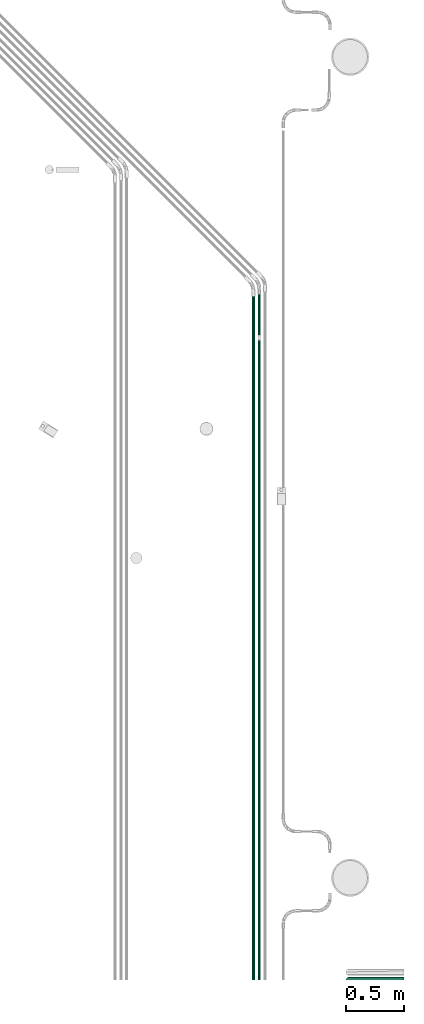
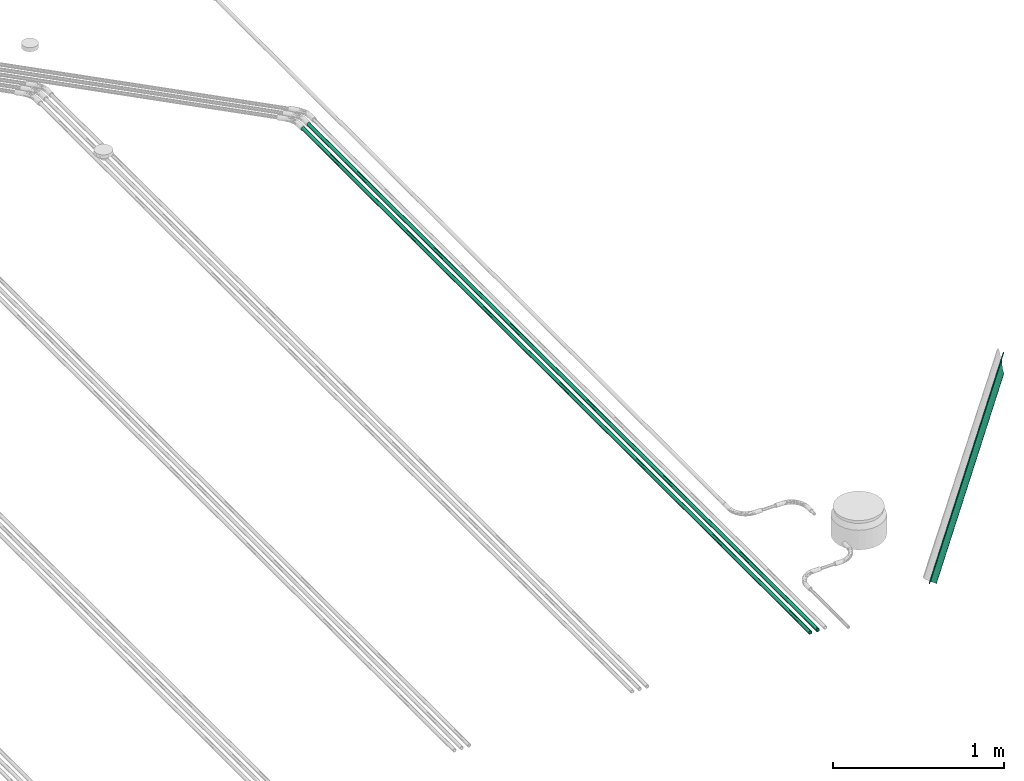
# One storey, part 39 of 51: 3 flow segments.
"""IFC2X3 building model written with IfcOpenShell, lengths in millimetres."""

from ifc_helpers import new_model, entity, si_unit, converted_unit, derived_unit, direction, frame, place, context, subcontext, project, spatial, faceted_brep, type_object, element, save


model = new_model("IFC2X3")

# Units and contexts
model_context = context("Model", 3, precision=0.01, world=frame((0.0, 4.29681676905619e-09, 0.0)), true_north=direction((4.01073788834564e-13, 1.0)))
plan_context = context("Plan", 3, precision=0.01, world=frame((0.0, 4.29681676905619e-09, 0.0)), true_north=direction((4.01073788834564e-13, 1.0)))
body_context = subcontext(model_context, "Body", "Model", "MODEL_VIEW")
ifc_project = project(units=[converted_unit("PLANEANGLEUNIT", "DEGREE", entity("IfcPositiveLengthMeasure", 0.0174532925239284), si_unit("PLANEANGLEUNIT", "RADIAN"), dimensions=[0, 0, 0, 0, 0, 0, 0]), si_unit("AREAUNIT", "SQUARE_METRE"), si_unit("LENGTHUNIT", "METRE", prefix="MILLI"), si_unit("MASSUNIT", "GRAM", prefix="KILO"), si_unit("POWERUNIT", "WATT"), si_unit("PRESSUREUNIT", "PASCAL"), si_unit("FORCEUNIT", "NEWTON", prefix="KILO"), si_unit("ELECTRICVOLTAGEUNIT", "VOLT"), si_unit("ELECTRICCURRENTUNIT", "AMPERE"), si_unit("THERMODYNAMICTEMPERATUREUNIT", "DEGREE_CELSIUS"), si_unit("TIMEUNIT", "SECOND"), si_unit("VOLUMEUNIT", "CUBIC_METRE"), derived_unit("LINEARVELOCITYUNIT", [(si_unit("LENGTHUNIT", "METRE"), 1), (si_unit("TIMEUNIT", "SECOND"), -1)]), derived_unit("VOLUMETRICFLOWRATEUNIT", [(si_unit("VOLUMEUNIT", "CUBIC_METRE"), 1), (si_unit("TIMEUNIT", "SECOND"), -1)]), derived_unit("THERMALTRANSMITTANCEUNIT", [(si_unit("POWERUNIT", "WATT"), 1), (si_unit("THERMODYNAMICTEMPERATUREUNIT", "KELVIN"), -1), (si_unit("AREAUNIT", "SQUARE_METRE"), -1)]), derived_unit("SOUNDPRESSUREUNIT", [(si_unit("PRESSUREUNIT", "PASCAL"), 1)])], contexts=[model_context, plan_context])

# Site, building, storey
site_placement = place(None, frame((0.0, -4.29681676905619e-09, 0.0), z_axis=(0.0, 0.0, 1.0), x_axis=(1.0, 0.0, 0.0)))
site = spatial("IfcSite", under=ifc_project, at=site_placement, Name="ENGM", CompositionType="ELEMENT")
building_placement = place(site_placement, frame((0.0, 4.29681676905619e-09, 0.0), z_axis=(0.0, 0.0, 1.0), x_axis=(1.0, 0.0, 0.0)))
building = spatial("IfcBuilding", under=site, at=building_placement, Name="TI", CompositionType="ELEMENT")
storey_placement = place(building_placement, frame((0.0, 0.0, 210900.0), z_axis=(0.0, 0.0, 1.0), x_axis=(1.0, 0.0, 0.0)))
storey = spatial("IfcBuildingStorey", under=building, at=storey_placement, Name="Nivå F", CompositionType="ELEMENT", Elevation=210900.0)

# Flow segments
cable_carrier_segment_type_1 = type_object("IfcCableCarrierSegmentType", Name="Trekkerør, korrugert", PredefinedType="CONDUITSEGMENT")
flow_segment_1_placement = place(storey_placement, frame((611124.59, 694926.31681, -56.7999999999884), z_axis=(0.0, 0.0, 1.0), x_axis=(0.0, -1.0, 0.0)))
element("IfcFlowSegment", 1, at=flow_segment_1_placement, inside=storey, type_object=cable_carrier_segment_type_1, Name="Trekkerør, korrugert", context=body_context, shape_type="Brep", body=[
    faceted_brep([(5926.31681000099, 10.5, 0.0), (5926.31681000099, 10.3404814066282, -1.82330586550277), (0.0, 10.3404814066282, -1.82330586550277), (0.0, 10.5, 0.0), (5926.31681000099, 9.86677251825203, -3.59121150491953), (0.0, 9.86677251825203, -3.59121150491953), (5926.31681000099, 9.0932667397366, -5.25), (0.0, 9.0932667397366, -5.25), (5926.31681000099, 8.04346665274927, -6.74926990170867), (0.0, 8.04346665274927, -6.74926990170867), (5926.31681000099, 6.74926990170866, -8.04346665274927), (0.0, 6.74926990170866, -8.04346665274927), (5926.31681000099, 5.25, -9.09326673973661), (0.0, 5.25, -9.09326673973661), (5926.31681000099, 3.59121150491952, -9.86677251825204), (0.0, 3.59121150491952, -9.86677251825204), (5926.31681000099, 1.82330586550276, -10.3404814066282), (0.0, 1.82330586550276, -10.3404814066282), (5926.31681000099, -1.92881870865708e-15, -10.5), (0.0, -1.92881870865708e-15, -10.5), (5926.31681000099, -1.82330586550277, -10.3404814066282), (0.0, -1.82330586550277, -10.3404814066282), (5926.31681000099, -3.59121150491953, -9.86677251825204), (0.0, -3.59121150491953, -9.86677251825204), (5926.31681000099, -5.25, -9.0932667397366), (0.0, -5.25, -9.0932667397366), (5926.31681000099, -6.74926990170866, -8.04346665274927), (0.0, -6.74926990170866, -8.04346665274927), (5926.31681000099, -8.04346665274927, -6.74926990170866), (0.0, -8.04346665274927, -6.74926990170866), (5926.31681000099, -9.09326673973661, -5.25), (0.0, -9.09326673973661, -5.25), (5926.31681000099, -9.86677251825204, -3.59121150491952), (0.0, -9.86677251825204, -3.59121150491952), (5926.31681000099, -10.3404814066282, -1.82330586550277), (0.0, -10.3404814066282, -1.82330586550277), (5926.31681000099, -10.5, 1.28587913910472e-15), (0.0, -10.5, 1.28587913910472e-15), (5926.31681000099, -10.3404814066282, 1.82330586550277), (0.0, -10.3404814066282, 1.82330586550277), (5926.31681000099, -9.86677251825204, 3.59121150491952), (0.0, -9.86677251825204, 3.59121150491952), (5926.31681000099, -9.09326673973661, 5.25), (0.0, -9.09326673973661, 5.25), (5926.31681000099, -8.04346665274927, 6.74926990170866), (0.0, -8.04346665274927, 6.74926990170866), (5926.31681000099, -6.74926990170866, 8.04346665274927), (0.0, -6.74926990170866, 8.04346665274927), (5926.31681000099, -5.25, 9.09326673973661), (0.0, -5.25, 9.09326673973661), (5926.31681000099, -3.59121150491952, 9.86677251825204), (0.0, -3.59121150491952, 9.86677251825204), (5926.31681000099, -1.82330586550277, 10.3404814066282), (0.0, -1.82330586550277, 10.3404814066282), (5926.31681000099, 6.4293956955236e-16, 10.5), (0.0, 6.4293956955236e-16, 10.5), (5926.31681000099, 1.82330586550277, 10.3404814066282), (0.0, 1.82330586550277, 10.3404814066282), (5926.31681000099, 3.59121150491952, 9.86677251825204), (0.0, 3.59121150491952, 9.86677251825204), (5926.31681000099, 5.25, 9.09326673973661), (0.0, 5.25, 9.09326673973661), (5926.31681000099, 6.74926990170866, 8.04346665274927), (0.0, 6.74926990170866, 8.04346665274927), (5926.31681000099, 8.04346665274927, 6.74926990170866), (0.0, 8.04346665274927, 6.74926990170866), (5926.31681000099, 9.09326673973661, 5.25), (0.0, 9.09326673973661, 5.25), (5926.31681000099, 9.86677251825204, 3.59121150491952), (0.0, 9.86677251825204, 3.59121150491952), (5926.31681000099, 10.3404814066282, 1.82330586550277), (0.0, 10.3404814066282, 1.82330586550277), (5926.31681000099, 12.3100969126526, -2.17060222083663), (5926.31681000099, 12.5, 0.0), (0.0, 12.5, 0.0), (0.0, 12.3100969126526, -2.17060222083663), (5926.31681000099, 12.3100969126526, 2.17060222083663), (0.0, 12.3100969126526, 2.17060222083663), (5926.31681000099, 11.7461577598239, 4.27525179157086), (0.0, 11.7461577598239, 4.27525179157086), (5926.31681000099, 10.8253175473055, 6.25), (0.0, 10.8253175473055, 6.25), (5926.31681000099, 9.57555553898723, 8.03484512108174), (0.0, 9.57555553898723, 8.03484512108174), (5926.31681000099, 8.03484512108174, 9.57555553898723), (0.0, 8.03484512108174, 9.57555553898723), (5926.31681000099, 6.25, 10.8253175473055), (0.0, 6.25, 10.8253175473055), (5926.31681000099, 4.27525179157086, 11.7461577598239), (0.0, 4.27525179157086, 11.7461577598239), (5926.31681000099, 2.17060222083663, 12.3100969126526), (0.0, 2.17060222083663, 12.3100969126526), (5926.31681000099, 7.65404249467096e-16, 12.5), (0.0, 7.65404249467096e-16, 12.5), (5926.31681000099, -2.17060222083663, 12.3100969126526), (0.0, -2.17060222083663, 12.3100969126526), (5926.31681000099, -4.27525179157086, 11.7461577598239), (0.0, -4.27525179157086, 11.7461577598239), (5926.31681000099, -6.25, 10.8253175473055), (0.0, -6.25, 10.8253175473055), (5926.31681000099, -8.03484512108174, 9.57555553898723), (0.0, -8.03484512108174, 9.57555553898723), (5926.31681000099, -9.57555553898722, 8.03484512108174), (0.0, -9.57555553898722, 8.03484512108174), (5926.31681000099, -10.8253175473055, 6.25), (0.0, -10.8253175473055, 6.25), (5926.31681000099, -11.7461577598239, 4.27525179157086), (0.0, -11.7461577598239, 4.27525179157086), (5926.31681000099, -12.3100969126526, 2.17060222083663), (0.0, -12.3100969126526, 2.17060222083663), (5926.31681000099, -12.5, 1.53080849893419e-15), (0.0, -12.5, 1.53080849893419e-15), (5926.31681000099, -12.3100969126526, -2.17060222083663), (0.0, -12.3100969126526, -2.17060222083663), (5926.31681000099, -11.7461577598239, -4.27525179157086), (0.0, -11.7461577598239, -4.27525179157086), (5926.31681000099, -10.8253175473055, -6.25), (0.0, -10.8253175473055, -6.25), (5926.31681000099, -9.57555553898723, -8.03484512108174), (0.0, -9.57555553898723, -8.03484512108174), (5926.31681000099, -8.03484512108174, -9.57555553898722), (0.0, -8.03484512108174, -9.57555553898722), (5926.31681000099, -6.25000000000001, -10.8253175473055), (0.0, -6.25000000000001, -10.8253175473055), (5926.31681000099, -4.27525179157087, -11.7461577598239), (0.0, -4.27525179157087, -11.7461577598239), (5926.31681000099, -2.17060222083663, -12.3100969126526), (0.0, -2.17060222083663, -12.3100969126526), (5926.31681000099, -2.29621274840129e-15, -12.5), (0.0, -2.29621274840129e-15, -12.5), (5926.31681000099, 2.17060222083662, -12.3100969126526), (0.0, 2.17060222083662, -12.3100969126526), (5926.31681000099, 4.27525179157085, -11.7461577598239), (0.0, 4.27525179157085, -11.7461577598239), (5926.31681000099, 6.25, -10.8253175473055), (0.0, 6.25, -10.8253175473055), (5926.31681000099, 8.03484512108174, -9.57555553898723), (0.0, 8.03484512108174, -9.57555553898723), (5926.31681000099, 9.57555553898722, -8.03484512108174), (0.0, 9.57555553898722, -8.03484512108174), (5926.31681000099, 10.8253175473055, -6.25000000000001), (0.0, 10.8253175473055, -6.25000000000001), (5926.31681000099, 11.7461577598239, -4.27525179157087), (0.0, 11.7461577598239, -4.27525179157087)], [[[0, 1, 2, 3]], [[1, 4, 5, 2]], [[4, 6, 7, 5]], [[6, 8, 9, 7]], [[8, 10, 11, 9]], [[10, 12, 13, 11]], [[12, 14, 15, 13]], [[14, 16, 17, 15]], [[16, 18, 19, 17]], [[18, 20, 21, 19]], [[20, 22, 23, 21]], [[22, 24, 25, 23]], [[24, 26, 27, 25]], [[26, 28, 29, 27]], [[28, 30, 31, 29]], [[30, 32, 33, 31]], [[32, 34, 35, 33]], [[34, 36, 37, 35]], [[36, 38, 39, 37]], [[38, 40, 41, 39]], [[40, 42, 43, 41]], [[42, 44, 45, 43]], [[44, 46, 47, 45]], [[46, 48, 49, 47]], [[48, 50, 51, 49]], [[50, 52, 53, 51]], [[52, 54, 55, 53]], [[54, 56, 57, 55]], [[56, 58, 59, 57]], [[58, 60, 61, 59]], [[60, 62, 63, 61]], [[62, 64, 65, 63]], [[64, 66, 67, 65]], [[66, 68, 69, 67]], [[68, 70, 71, 69]], [[70, 0, 3, 71]], [[72, 73, 74, 75]], [[73, 76, 77, 74]], [[76, 78, 79, 77]], [[78, 80, 81, 79]], [[80, 82, 83, 81]], [[82, 84, 85, 83]], [[84, 86, 87, 85]], [[86, 88, 89, 87]], [[88, 90, 91, 89]], [[90, 92, 93, 91]], [[92, 94, 95, 93]], [[94, 96, 97, 95]], [[96, 98, 99, 97]], [[98, 100, 101, 99]], [[100, 102, 103, 101]], [[102, 104, 105, 103]], [[104, 106, 107, 105]], [[106, 108, 109, 107]], [[108, 110, 111, 109]], [[110, 112, 113, 111]], [[112, 114, 115, 113]], [[114, 116, 117, 115]], [[116, 118, 119, 117]], [[118, 120, 121, 119]], [[120, 122, 123, 121]], [[122, 124, 125, 123]], [[124, 126, 127, 125]], [[126, 128, 129, 127]], [[128, 130, 131, 129]], [[130, 132, 133, 131]], [[132, 134, 135, 133]], [[134, 136, 137, 135]], [[136, 138, 139, 137]], [[138, 140, 141, 139]], [[140, 142, 143, 141]], [[142, 72, 75, 143]], [[75, 74, 77, 79, 81, 83, 85, 87, 89, 91, 93, 95, 97, 99, 101, 103, 105, 107, 109, 111, 113, 115, 117, 119, 121, 123, 125, 127, 129, 131, 133, 135, 137, 139, 141, 143], [3, 2, 5, 7, 9, 11, 13, 15, 17, 19, 21, 23, 25, 27, 29, 31, 33, 35, 37, 39, 41, 43, 45, 47, 49, 51, 53, 55, 57, 59, 61, 63, 65, 67, 69, 71]], [[142, 140, 138, 136, 134, 132, 130, 128, 126, 124, 122, 120, 118, 116, 114, 112, 110, 108, 106, 104, 102, 100, 98, 96, 94, 92, 90, 88, 86, 84, 82, 80, 78, 76, 73, 72], [70, 68, 66, 64, 62, 60, 58, 56, 54, 52, 50, 48, 46, 44, 42, 40, 38, 36, 34, 32, 30, 28, 26, 24, 22, 20, 18, 16, 14, 12, 10, 8, 6, 4, 1, 0]]], orient=[[False], [False], [False], [False], [False], [False], [False], [False], [False], [False], [False], [False], [False], [False], [False], [False], [False], [False], [False], [False], [False], [False], [False], [False], [False], [False], [False], [False], [False], [False], [False], [False], [False], [False], [False], [False], [False], [False], [False], [False], [False], [False], [False], [False], [False], [False], [False], [False], [False], [False], [False], [False], [False], [False], [False], [False], [False], [False], [False], [False], [False], [False], [False], [False], [False], [False], [False], [False], [False], [False], [False], [False], [False, False], [False, False]]),
])
flow_segment_2_placement = place(storey_placement, frame((611174.59, 694947.02749, -56.7999999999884), z_axis=(0.0, 0.0, 1.0), x_axis=(0.0, -1.0, 0.0)))
element("IfcFlowSegment", 2, at=flow_segment_2_placement, inside=storey, type_object=cable_carrier_segment_type_1, Name="Trekkerør, korrugert", context=body_context, shape_type="Brep", body=[
    faceted_brep([(5947.02749000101, 10.5, 0.0), (5947.02749000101, 10.3404814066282, -1.82330586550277), (0.0, 10.3404814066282, -1.82330586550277), (0.0, 10.5, 0.0), (5947.02749000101, 9.86677251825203, -3.59121150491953), (0.0, 9.86677251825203, -3.59121150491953), (5947.02749000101, 9.0932667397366, -5.25), (0.0, 9.0932667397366, -5.25), (5947.02749000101, 8.04346665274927, -6.74926990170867), (0.0, 8.04346665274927, -6.74926990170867), (5947.02749000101, 6.74926990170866, -8.04346665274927), (0.0, 6.74926990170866, -8.04346665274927), (5947.02749000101, 5.25, -9.09326673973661), (0.0, 5.25, -9.09326673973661), (5947.02749000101, 3.59121150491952, -9.86677251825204), (0.0, 3.59121150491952, -9.86677251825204), (5947.02749000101, 1.82330586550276, -10.3404814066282), (0.0, 1.82330586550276, -10.3404814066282), (5947.02749000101, -1.92881870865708e-15, -10.5), (0.0, -1.92881870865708e-15, -10.5), (5947.02749000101, -1.82330586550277, -10.3404814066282), (0.0, -1.82330586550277, -10.3404814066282), (5947.02749000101, -3.59121150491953, -9.86677251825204), (0.0, -3.59121150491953, -9.86677251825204), (5947.02749000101, -5.25, -9.0932667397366), (0.0, -5.25, -9.0932667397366), (5947.02749000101, -6.74926990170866, -8.04346665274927), (0.0, -6.74926990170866, -8.04346665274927), (5947.02749000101, -8.04346665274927, -6.74926990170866), (0.0, -8.04346665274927, -6.74926990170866), (5947.02749000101, -9.09326673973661, -5.25), (0.0, -9.09326673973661, -5.25), (5947.02749000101, -9.86677251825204, -3.59121150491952), (0.0, -9.86677251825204, -3.59121150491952), (5947.02749000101, -10.3404814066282, -1.82330586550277), (0.0, -10.3404814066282, -1.82330586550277), (5947.02749000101, -10.5, 1.28587913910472e-15), (0.0, -10.5, 1.28587913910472e-15), (5947.02749000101, -10.3404814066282, 1.82330586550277), (0.0, -10.3404814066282, 1.82330586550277), (5947.02749000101, -9.86677251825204, 3.59121150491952), (0.0, -9.86677251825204, 3.59121150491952), (5947.02749000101, -9.09326673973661, 5.25), (0.0, -9.09326673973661, 5.25), (5947.02749000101, -8.04346665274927, 6.74926990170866), (0.0, -8.04346665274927, 6.74926990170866), (5947.02749000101, -6.74926990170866, 8.04346665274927), (0.0, -6.74926990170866, 8.04346665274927), (5947.02749000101, -5.25, 9.09326673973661), (0.0, -5.25, 9.09326673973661), (5947.02749000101, -3.59121150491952, 9.86677251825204), (0.0, -3.59121150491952, 9.86677251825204), (5947.02749000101, -1.82330586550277, 10.3404814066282), (0.0, -1.82330586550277, 10.3404814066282), (5947.02749000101, 6.4293956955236e-16, 10.5), (0.0, 6.4293956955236e-16, 10.5), (5947.02749000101, 1.82330586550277, 10.3404814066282), (0.0, 1.82330586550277, 10.3404814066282), (5947.02749000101, 3.59121150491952, 9.86677251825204), (0.0, 3.59121150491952, 9.86677251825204), (5947.02749000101, 5.25, 9.09326673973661), (0.0, 5.25, 9.09326673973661), (5947.02749000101, 6.74926990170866, 8.04346665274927), (0.0, 6.74926990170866, 8.04346665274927), (5947.02749000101, 8.04346665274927, 6.74926990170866), (0.0, 8.04346665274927, 6.74926990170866), (5947.02749000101, 9.09326673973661, 5.25), (0.0, 9.09326673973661, 5.25), (5947.02749000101, 9.86677251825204, 3.59121150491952), (0.0, 9.86677251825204, 3.59121150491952), (5947.02749000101, 10.3404814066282, 1.82330586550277), (0.0, 10.3404814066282, 1.82330586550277), (5947.02749000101, 12.3100969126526, -2.17060222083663), (5947.02749000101, 12.5, 0.0), (0.0, 12.5, 0.0), (0.0, 12.3100969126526, -2.17060222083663), (5947.02749000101, 12.3100969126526, 2.17060222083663), (0.0, 12.3100969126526, 2.17060222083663), (5947.02749000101, 11.7461577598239, 4.27525179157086), (0.0, 11.7461577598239, 4.27525179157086), (5947.02749000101, 10.8253175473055, 6.25), (0.0, 10.8253175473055, 6.25), (5947.02749000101, 9.57555553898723, 8.03484512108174), (0.0, 9.57555553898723, 8.03484512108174), (5947.02749000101, 8.03484512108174, 9.57555553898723), (0.0, 8.03484512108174, 9.57555553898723), (5947.02749000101, 6.25, 10.8253175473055), (0.0, 6.25, 10.8253175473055), (5947.02749000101, 4.27525179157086, 11.7461577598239), (0.0, 4.27525179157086, 11.7461577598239), (5947.02749000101, 2.17060222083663, 12.3100969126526), (0.0, 2.17060222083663, 12.3100969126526), (5947.02749000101, 7.65404249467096e-16, 12.5), (0.0, 7.65404249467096e-16, 12.5), (5947.02749000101, -2.17060222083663, 12.3100969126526), (0.0, -2.17060222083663, 12.3100969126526), (5947.02749000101, -4.27525179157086, 11.7461577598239), (0.0, -4.27525179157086, 11.7461577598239), (5947.02749000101, -6.25, 10.8253175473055), (0.0, -6.25, 10.8253175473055), (5947.02749000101, -8.03484512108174, 9.57555553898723), (0.0, -8.03484512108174, 9.57555553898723), (5947.02749000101, -9.57555553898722, 8.03484512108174), (0.0, -9.57555553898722, 8.03484512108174), (5947.02749000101, -10.8253175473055, 6.25), (0.0, -10.8253175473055, 6.25), (5947.02749000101, -11.7461577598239, 4.27525179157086), (0.0, -11.7461577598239, 4.27525179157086), (5947.02749000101, -12.3100969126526, 2.17060222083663), (0.0, -12.3100969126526, 2.17060222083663), (5947.02749000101, -12.5, 1.53080849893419e-15), (0.0, -12.5, 1.53080849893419e-15), (5947.02749000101, -12.3100969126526, -2.17060222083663), (0.0, -12.3100969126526, -2.17060222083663), (5947.02749000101, -11.7461577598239, -4.27525179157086), (0.0, -11.7461577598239, -4.27525179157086), (5947.02749000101, -10.8253175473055, -6.25), (0.0, -10.8253175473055, -6.25), (5947.02749000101, -9.57555553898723, -8.03484512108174), (0.0, -9.57555553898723, -8.03484512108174), (5947.02749000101, -8.03484512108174, -9.57555553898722), (0.0, -8.03484512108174, -9.57555553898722), (5947.02749000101, -6.25000000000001, -10.8253175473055), (0.0, -6.25000000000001, -10.8253175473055), (5947.02749000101, -4.27525179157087, -11.7461577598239), (0.0, -4.27525179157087, -11.7461577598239), (5947.02749000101, -2.17060222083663, -12.3100969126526), (0.0, -2.17060222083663, -12.3100969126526), (5947.02749000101, -2.29621274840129e-15, -12.5), (0.0, -2.29621274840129e-15, -12.5), (5947.02749000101, 2.17060222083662, -12.3100969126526), (0.0, 2.17060222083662, -12.3100969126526), (5947.02749000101, 4.27525179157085, -11.7461577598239), (0.0, 4.27525179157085, -11.7461577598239), (5947.02749000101, 6.25, -10.8253175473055), (0.0, 6.25, -10.8253175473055), (5947.02749000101, 8.03484512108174, -9.57555553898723), (0.0, 8.03484512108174, -9.57555553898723), (5947.02749000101, 9.57555553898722, -8.03484512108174), (0.0, 9.57555553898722, -8.03484512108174), (5947.02749000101, 10.8253175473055, -6.25000000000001), (0.0, 10.8253175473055, -6.25000000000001), (5947.02749000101, 11.7461577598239, -4.27525179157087), (0.0, 11.7461577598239, -4.27525179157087)], [[[0, 1, 2, 3]], [[1, 4, 5, 2]], [[4, 6, 7, 5]], [[6, 8, 9, 7]], [[8, 10, 11, 9]], [[10, 12, 13, 11]], [[12, 14, 15, 13]], [[14, 16, 17, 15]], [[16, 18, 19, 17]], [[18, 20, 21, 19]], [[20, 22, 23, 21]], [[22, 24, 25, 23]], [[24, 26, 27, 25]], [[26, 28, 29, 27]], [[28, 30, 31, 29]], [[30, 32, 33, 31]], [[32, 34, 35, 33]], [[34, 36, 37, 35]], [[36, 38, 39, 37]], [[38, 40, 41, 39]], [[40, 42, 43, 41]], [[42, 44, 45, 43]], [[44, 46, 47, 45]], [[46, 48, 49, 47]], [[48, 50, 51, 49]], [[50, 52, 53, 51]], [[52, 54, 55, 53]], [[54, 56, 57, 55]], [[56, 58, 59, 57]], [[58, 60, 61, 59]], [[60, 62, 63, 61]], [[62, 64, 65, 63]], [[64, 66, 67, 65]], [[66, 68, 69, 67]], [[68, 70, 71, 69]], [[70, 0, 3, 71]], [[72, 73, 74, 75]], [[73, 76, 77, 74]], [[76, 78, 79, 77]], [[78, 80, 81, 79]], [[80, 82, 83, 81]], [[82, 84, 85, 83]], [[84, 86, 87, 85]], [[86, 88, 89, 87]], [[88, 90, 91, 89]], [[90, 92, 93, 91]], [[92, 94, 95, 93]], [[94, 96, 97, 95]], [[96, 98, 99, 97]], [[98, 100, 101, 99]], [[100, 102, 103, 101]], [[102, 104, 105, 103]], [[104, 106, 107, 105]], [[106, 108, 109, 107]], [[108, 110, 111, 109]], [[110, 112, 113, 111]], [[112, 114, 115, 113]], [[114, 116, 117, 115]], [[116, 118, 119, 117]], [[118, 120, 121, 119]], [[120, 122, 123, 121]], [[122, 124, 125, 123]], [[124, 126, 127, 125]], [[126, 128, 129, 127]], [[128, 130, 131, 129]], [[130, 132, 133, 131]], [[132, 134, 135, 133]], [[134, 136, 137, 135]], [[136, 138, 139, 137]], [[138, 140, 141, 139]], [[140, 142, 143, 141]], [[142, 72, 75, 143]], [[75, 74, 77, 79, 81, 83, 85, 87, 89, 91, 93, 95, 97, 99, 101, 103, 105, 107, 109, 111, 113, 115, 117, 119, 121, 123, 125, 127, 129, 131, 133, 135, 137, 139, 141, 143], [3, 2, 5, 7, 9, 11, 13, 15, 17, 19, 21, 23, 25, 27, 29, 31, 33, 35, 37, 39, 41, 43, 45, 47, 49, 51, 53, 55, 57, 59, 61, 63, 65, 67, 69, 71]], [[142, 140, 138, 136, 134, 132, 130, 128, 126, 124, 122, 120, 118, 116, 114, 112, 110, 108, 106, 104, 102, 100, 98, 96, 94, 92, 90, 88, 86, 84, 82, 80, 78, 76, 73, 72], [70, 68, 66, 64, 62, 60, 58, 56, 54, 52, 50, 48, 46, 44, 42, 40, 38, 36, 34, 32, 30, 28, 26, 24, 22, 20, 18, 16, 14, 12, 10, 8, 6, 4, 1, 0]]], orient=[[False], [False], [False], [False], [False], [False], [False], [False], [False], [False], [False], [False], [False], [False], [False], [False], [False], [False], [False], [False], [False], [False], [False], [False], [False], [False], [False], [False], [False], [False], [False], [False], [False], [False], [False], [False], [False], [False], [False], [False], [False], [False], [False], [False], [False], [False], [False], [False], [False], [False], [False], [False], [False], [False], [False], [False], [False], [False], [False], [False], [False], [False], [False], [False], [False], [False], [False], [False], [False], [False], [False], [False], [False, False], [False, False]]),
])
cable_carrier_segment_type_2 = type_object("IfcCableCarrierSegmentType", Name="Trekkerør, glatt", PredefinedType="CONDUITSEGMENT")
flow_segment_3_placement = place(storey_placement, frame((611951.29834, 689000.02793, 0.0), z_axis=(-0.946746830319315, 0.0, 0.321978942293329), x_axis=(0.321978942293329, 0.0, 0.946746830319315)))
element("IfcFlowSegment", 3, at=flow_segment_3_placement, inside=storey, type_object=cable_carrier_segment_type_2, Name="Trekkerør, glatt", context=body_context, shape_type="Brep", body=[
    faceted_brep([(1486.74753274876, 23.0, 0.0), (1475.00384605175, 22.6505783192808, -3.9939080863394), (0.0, 22.6505783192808, -3.9939080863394), (0.0, 23.0, 0.0), (1463.61698533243, 21.6129302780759, -7.8664632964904), (0.0, 21.6129302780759, -7.8664632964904), (1452.93293459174, 19.9185842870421, -11.5), (0.0, 19.9185842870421, -11.5), (1443.27632330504, 17.6190221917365, -14.7841150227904), (0.0, 17.6190221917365, -14.7841150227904), (1434.94056271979, 14.7841150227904, -17.6190221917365), (0.0, 14.7841150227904, -17.6190221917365), (1428.17893070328, 11.5, -19.9185842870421), (0.0, 11.5, -19.9185842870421), (1423.19687602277, 7.86646329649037, -21.6129302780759), (0.0, 7.86646329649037, -21.6129302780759), (1420.14577588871, 3.99390808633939, -22.6505783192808), (0.0, 3.99390808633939, -22.6505783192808), (1419.11115139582, -0.027930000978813, -23.0024435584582), (0.0, -4.22503145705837e-15, -23.0), (0.0, -0.0279300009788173, -22.9975564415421), (0.0, -0.027930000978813, 22.9975564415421), (1554.36954402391, -0.027930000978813, 22.9975564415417), (0.0, 1.40834381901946e-15, 23.0), (1553.34928960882, 3.9939080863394, 22.6505783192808), (0.0, 3.9939080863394, 22.6505783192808), (1550.29818947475, 7.86646329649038, 21.6129302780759), (0.0, 7.86646329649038, 21.6129302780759), (1545.31613479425, 11.5, 19.9185842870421), (0.0, 11.5, 19.9185842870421), (1538.55450277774, 14.7841150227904, 17.6190221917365), (0.0, 14.7841150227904, 17.6190221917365), (1530.21874219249, 17.6190221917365, 14.7841150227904), (0.0, 17.6190221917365, 14.7841150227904), (1520.56213090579, 19.9185842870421, 11.5), (0.0, 19.9185842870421, 11.5), (1509.87808016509, 21.6129302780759, 7.86646329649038), (0.0, 21.6129302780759, 7.86646329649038), (1498.49121944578, 22.6505783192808, 3.9939080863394), (0.0, 22.6505783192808, 3.9939080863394), (1473.98265590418, 24.6201938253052, -4.34120444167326), (1486.74753274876, 25.0, 0.0), (0.0, 25.0, 0.0), (0.0, 24.6201938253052, -4.34120444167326), (1499.51240959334, 24.6201938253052, 4.34120444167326), (0.0, 24.6201938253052, 4.34120444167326), (1511.88943211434, 23.4923155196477, 8.55050358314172), (0.0, 23.4923155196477, 8.55050358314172), (1523.50253074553, 21.650635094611, 12.5), (0.0, 21.650635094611, 12.5), (1533.99884736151, 19.1511110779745, 16.0696902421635), (0.0, 19.1511110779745, 16.0696902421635), (1543.0594566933, 16.0696902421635, 19.1511110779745), (0.0, 16.0696902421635, 19.1511110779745), (1550.40905671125, 12.5, 21.650635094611), (0.0, 12.5, 21.650635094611), (1555.82433353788, 8.55050358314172, 23.4923155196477), (0.0, 8.55050358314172, 23.4923155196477), (1559.14074672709, 4.34120444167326, 24.6201938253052), (0.0, 4.34120444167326, 24.6201938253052), (1560.26471378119, -0.027930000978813, 25.0024435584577), (0.0, 1.53080849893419e-15, 25.0), (0.0, -0.0279300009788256, 24.9975564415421), (0.0, -0.027930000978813, -24.997556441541), (1413.24472179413, -0.027930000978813, -24.9975564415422), (0.0, -4.59242549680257e-15, -25.0), (1414.35431877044, 4.34120444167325, -24.6201938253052), (0.0, 4.34120444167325, -24.6201938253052), (1417.67073195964, 8.5505035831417, -23.4923155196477), (0.0, 8.5505035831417, -23.4923155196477), (1423.08600878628, 12.5, -21.650635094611), (0.0, 12.5, -21.650635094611), (1430.43560880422, 16.0696902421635, -19.1511110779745), (0.0, 16.0696902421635, -19.1511110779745), (1439.49621813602, 19.1511110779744, -16.0696902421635), (0.0, 19.1511110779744, -16.0696902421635), (1449.992534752, 21.650635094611, -12.5), (0.0, 21.650635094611, -12.5), (1461.60563338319, 23.4923155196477, -8.55050358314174), (0.0, 23.4923155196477, -8.55050358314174), (1560.25034370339, -0.0279300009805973, 24.9975564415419), (1560.25752874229, 1.53080849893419e-15, 25.0), (1413.23753675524, -4.59242549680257e-15, -25.0), (1419.12552147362, -0.0279300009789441, -22.9975564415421), (1419.11833643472, -4.22503145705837e-15, -23.0), (1554.37672906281, 1.40834381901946e-15, 23.0)], [[[0, 1, 2, 3]], [[1, 4, 5, 2]], [[4, 6, 7, 5]], [[6, 8, 9, 7]], [[8, 10, 11, 9]], [[10, 12, 13, 11]], [[12, 14, 15, 13]], [[14, 16, 17, 15]], [[16, 18, 19, 17]], [[18, 20, 19]], [[21, 22, 23]], [[22, 24, 25, 23]], [[24, 26, 27, 25]], [[26, 28, 29, 27]], [[28, 30, 31, 29]], [[30, 32, 33, 31]], [[32, 34, 35, 33]], [[34, 36, 37, 35]], [[36, 38, 39, 37]], [[38, 0, 3, 39]], [[40, 41, 42, 43]], [[41, 44, 45, 42]], [[44, 46, 47, 45]], [[46, 48, 49, 47]], [[48, 50, 51, 49]], [[50, 52, 53, 51]], [[52, 54, 55, 53]], [[54, 56, 57, 55]], [[56, 58, 59, 57]], [[58, 60, 61, 59]], [[60, 62, 61]], [[63, 64, 65]], [[64, 66, 67, 65]], [[66, 68, 69, 67]], [[68, 70, 71, 69]], [[70, 72, 73, 71]], [[72, 74, 75, 73]], [[74, 76, 77, 75]], [[76, 78, 79, 77]], [[78, 40, 43, 79]], [[62, 21, 23, 25, 27, 29, 31, 33, 35, 37, 39, 3, 2, 5, 7, 9, 11, 13, 15, 17, 19, 20, 63, 65, 67, 69, 71, 73, 75, 77, 79, 43, 42, 45, 47, 49, 51, 53, 55, 57, 59, 61]], [[80, 81, 58, 56, 54, 52, 50, 48, 46, 44, 41, 40, 78, 76, 74, 72, 70, 68, 66, 82, 64, 83, 84, 16, 14, 12, 10, 8, 6, 4, 1, 0, 38, 36, 34, 32, 30, 28, 26, 24, 85, 22]], [[64, 65, 19, 83]], [[22, 23, 61, 80]]], orient=[[False], [False], [False], [False], [False], [False], [False], [False], [False], [False], [False], [False], [False], [False], [False], [False], [False], [False], [False], [False], [False], [False], [False], [False], [False], [False], [False], [False], [False], [False], [False], [False], [False], [False], [False], [False], [False], [False], [False], [False], [False], [False], [False], [False]]),
])

save(model, "model.ifc")
